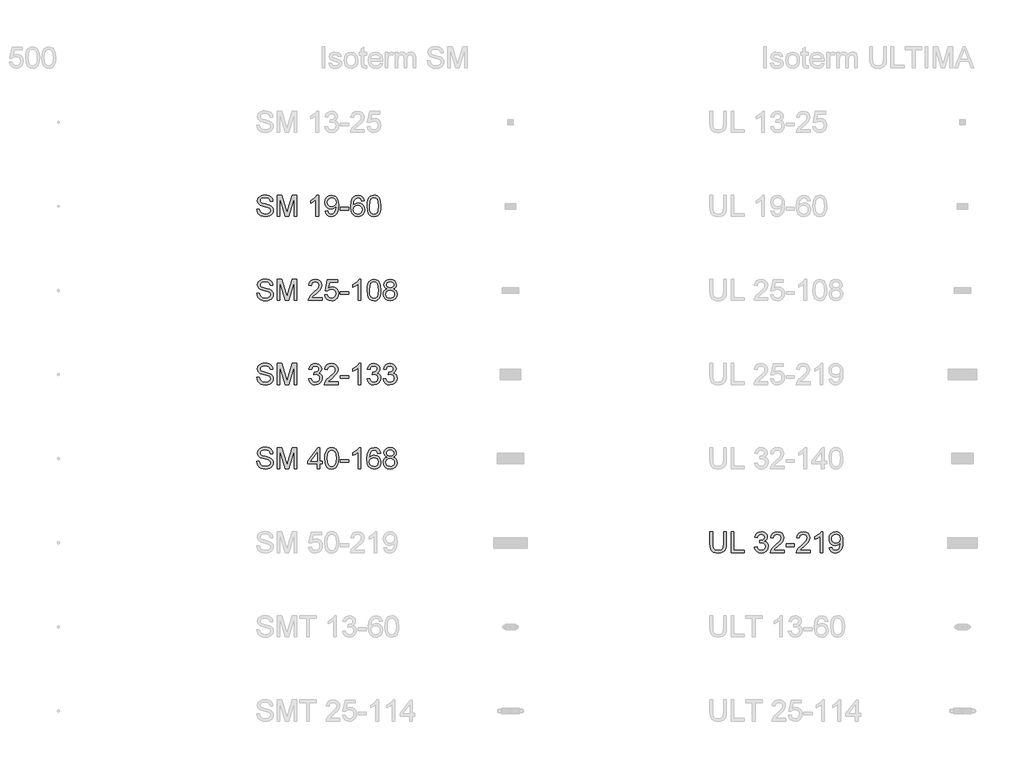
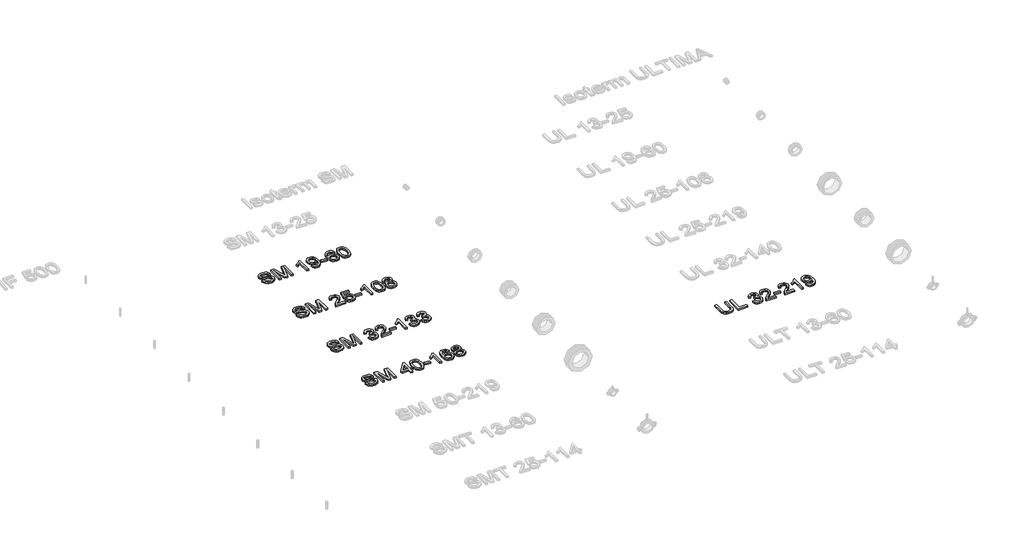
# One storey, part 7 of 10: 5 proxies.
"""IFC4 building model written with IfcOpenShell, lengths in millimetres."""

from ifc_helpers import new_model, si_unit, origin, origin_with_axes, place, context, project, spatial, polyline, outline, extrude, element, save

model = new_model("IFC4")

# Units and contexts
model_context = context("Model", 3, world=origin())
ifc_project = project(units=[si_unit("LENGTHUNIT", "METRE", prefix="MILLI")], contexts=[model_context])

# Site, building, storey
site = spatial("IfcSite", under=ifc_project)
building = spatial("IfcBuilding", under=site)
storey = spatial("IfcBuildingStorey", under=building, Name="Этаж 01", Elevation=0.0)

# Proxies
placement = place(None, origin())
element("IfcBuildingElementProxy", 1, Name="200 мм Arial", ObjectType="200 мм Arial", at=placement, inside=storey, context=model_context, shape_type="SweptSolid", body=[
    extrude(outline(polyline([(9162.1098597, -1525.9144615), (9187.2239373, -1525.9144615), (9195.3173412, -1551.0530645), (9203.4475333, -1559.9435461), (9215.084867, -1566.9455667), (9229.3096375, -1571.4889093), (9245.2021397, -1573.0033569), (9271.4443887, -1568.4170947), (9288.3914859, -1555.811005), (9293.9587668, -1538.9620096), (9289.7894375, -1523.2902366), (9283.4373417, -1517.091425), (9272.7197129, -1511.8858947), (9236.1522426, -1502.2964374), (9196.7888691, -1489.9110769), (9184.2870127, -1481.4620537), (9175.427188, -1471.2226715), (9170.1480813, -1459.4136595), (9168.3883791, -1446.2557468), (9170.5650143, -1431.5465984), (9177.0949197, -1417.8307313), (9187.8064171, -1406.2056603), (9202.5278283, -1397.7688998), (9220.1984268, -1392.636946), (9239.7574862, -1390.9262947), (9260.9474891, -1392.7166538), (9279.4887417, -1398.0877309), (9294.7190563, -1406.9291615), (9305.9762453, -1419.130581), (9313.1008933, -1433.9317), (9315.9335846, -1450.5722289), (9290.8195071, -1450.5722289), (9286.2087194, -1435.5871689), (9276.5947366, -1424.7714383), (9261.5728885, -1418.2231388), (9240.7385048, -1416.0403723), (9219.4136118, -1418.1986133), (9204.7841712, -1424.6733364), (9196.3228853, -1434.2014801), (9193.5024567, -1445.5199828), (9195.5012822, -1455.1707538), (9201.4977587, -1462.9330639), (9215.6734782, -1469.8737709), (9242.5043384, -1476.9616307), (9286.9444834, -1489.5677204), (9301.2612244, -1498.6789311), (9311.2492206, -1509.9238574), (9317.1169384, -1523.179872), (9319.0728443, -1538.3243475), (9316.8226328, -1553.8060481), (9310.0719982, -1568.3680437), (9299.096852, -1580.900557), (9284.1731057, -1590.2938107), (9266.2265957, -1596.1615285), (9246.1831584, -1598.1174344), (9221.5779843, -1596.0082443), (9201.3260804, -1589.680674), (9185.1944549, -1579.110198), (9172.9501159, -1564.2722909), (9165.0897039, -1546.1970222), (9162.1098597, -1525.9144615)])), origin_with_axes(), (0.0, 0.0, 1.0), 20.0),
    extrude(outline(polyline([(9356.7439606, -1594.9781747), (9356.7439606, -1394.0655544), (9399.9578323, -1394.0655544), (9441.0625139, -1535.6755971), (9449.3521216, -1565.2533095), (9458.3284422, -1533.2230505), (9498.7464108, -1394.0655544), (9541.9602825, -1394.0655544), (9541.9602825, -1594.9781747), (9516.8462049, -1594.9781747), (9516.8462049, -1419.179632), (9466.3727952, -1594.9781747), (9432.3314479, -1594.9781747), (9381.8580382, -1419.179632), (9381.8580382, -1594.9781747), (9356.7439606, -1594.9781747)])), origin_with_axes(), (0.0, 0.0, 1.0), 20.0),
    extrude(outline(polyline([(9749.1514222, -1594.9781747), (9724.0373446, -1594.9781747), (9724.0373446, -1438.4075976), (9700.2476423, -1455.3546948), (9673.8091896, -1468.0343609), (9673.8091896, -1444.2937095), (9710.6219145, -1420.7983127), (9724.0925269, -1407.2234671), (9732.9646144, -1394.0655544), (9749.1514222, -1394.0655544), (9749.1514222, -1594.9781747)])), origin_with_axes(), (0.0, 0.0, 1.0), 20.0),
    extrude(outline(polyline([(9811.936616, -1544.7500196), (9837.0506935, -1541.61076), (9841.3426502, -1555.8661873), (9848.3324081, -1565.5721406), (9857.848289, -1571.1455528), (9869.7186147, -1573.0033569), (9890.0502263, -1568.2208909), (9903.8335384, -1555.443123), (9912.0495696, -1533.6154579), (9915.6793387, -1504.4792039), (9915.5321859, -1499.5741106), (9906.8317767, -1510.1936376), (9895.4458289, -1518.6058725), (9882.1959457, -1524.0873143), (9867.9037302, -1525.9144615), (9845.003076, -1521.4508266), (9825.9406573, -1508.059922), (9813.0831816, -1487.3726911), (9808.7973563, -1461.0200775), (9813.291648, -1433.7968099), (9826.7745231, -1412.4596542), (9847.026427, -1398.6640794), (9871.8278048, -1394.0655544), (9890.5591297, -1396.6897793), (9907.6104602, -1404.562454), (9921.8720189, -1417.2911711), (9932.2340284, -1434.483523), (9938.5432047, -1458.2486999), (9940.6462634, -1490.6958918), (9938.549336, -1525.0989897), (9932.2585539, -1551.6907266), (9921.8290993, -1571.6728503), (9907.3161546, -1586.2471087), (9889.3451192, -1595.149853), (9868.5413923, -1598.1174344), (9847.0693466, -1594.6164241), (9829.9383083, -1584.1133931), (9817.957618, -1567.2705291), (9811.936616, -1544.7500196)]), holes=[polyline([(9915.5321859, -1460.4314664), (9912.8221218, -1443.4107927), (9904.6919297, -1430.3141937), (9892.0735773, -1421.9632724), (9875.8990322, -1419.179632), (9859.1236133, -1422.1778702), (9845.6836577, -1431.172585), (9836.8544898, -1444.937503), (9833.9114339, -1462.2463509), (9836.6950743, -1477.7648397), (9845.0459956, -1490.0827552), (9858.1548573, -1498.1209768), (9875.2123192, -1500.800384), (9891.2581055, -1498.1209768), (9904.1768949, -1490.0827552), (9912.6933631, -1477.3111186), (9915.5321859, -1460.4314664)])]), origin_with_axes(), (0.0, 0.0, 1.0), 20.0),
    extrude(outline(polyline([(9956.3425619, -1535.3322406), (9956.3425619, -1510.218163), (10034.8240542, -1510.218163), (10034.8240542, -1535.3322406), (9956.3425619, -1535.3322406)])), origin_with_axes(), (0.0, 0.0, 1.0), 20.0),
    extrude(outline(polyline([(10185.5085194, -1447.4329692), (10160.3944418, -1450.5722289), (10150.8785609, -1429.6274806), (10139.4864818, -1421.7915941), (10125.7154324, -1419.179632), (10103.0539015, -1425.2619476), (10093.6177284, -1434.8697991), (10085.9106006, -1448.0951568), (10080.7050703, -1466.8019562), (10078.7736898, -1492.8541329), (10088.8475251, -1481.1003031), (10100.920186, -1472.8168269), (10114.3172219, -1467.9056022), (10128.3641828, -1466.2685273), (10151.565274, -1470.744425), (10171.0384942, -1484.1721178), (10184.2454579, -1504.6876704), (10188.6477791, -1530.4271473), (10186.5753772, -1548.4104455), (10180.3581714, -1565.0816312), (10170.5111967, -1579.2205626), (10157.5494877, -1589.6070976), (10142.0616557, -1595.9898502), (10124.6363119, -1598.1174344), (10096.1438514, -1592.4765772), (10073.4516636, -1575.5540054), (10064.7926412, -1562.4451436), (10058.6076251, -1545.6819874), (10053.6596123, -1501.1927914), (10059.1533168, -1451.1731028), (10066.0204473, -1432.0953557), (10075.6344302, -1416.97234), (10086.0546877, -1406.9506213), (10098.1365455, -1399.7922508), (10127.2850623, -1394.0655544), (10149.3211938, -1397.6094843), (10166.9672668, -1408.241274), (10179.3281019, -1425.1270576), (10185.5085194, -1447.4329692)]), holes=[polyline([(10078.7736898, -1530.0347398), (10084.5862254, -1551.7888285), (10100.0372692, -1567.5832288), (10122.6742746, -1573.0033569), (10139.2473585, -1570.195191), (10152.2765125, -1561.7706933), (10160.7194043, -1548.5269415), (10163.5337015, -1531.2610132), (10160.7561925, -1514.6879293), (10152.4236653, -1502.0511827), (10139.1737821, -1494.0497493), (10121.644205, -1491.3826049), (10105.0956466, -1494.0497493), (10091.2571522, -1502.0511827), (10081.8945554, -1514.3813609), (10078.7736898, -1530.0347398)])]), origin_with_axes(), (0.0, 0.0, 1.0), 20.0),
    extrude(outline(polyline([(10210.6225969, -1496.1405454), (10212.4681383, -1463.9815276), (10218.0047623, -1438.3340212), (10227.1772867, -1418.8056186), (10239.9305292, -1405.0039124), (10256.3564603, -1396.8001439), (10276.5470505, -1394.0655544), (10292.0226197, -1395.6842352), (10305.8795082, -1400.5402775), (10317.467791, -1408.4436091), (10326.1375434, -1419.2041574), (10337.9097672, -1448.9290226), (10342.471504, -1496.1405454), (10340.6443567, -1528.1156221), (10335.162915, -1553.7018149), (10326.0455729, -1573.2486115), (10313.3107245, -1587.1055), (10296.8480052, -1595.3644508), (10276.5470505, -1598.1174344), (10250.4519543, -1593.3349685), (10230.6353775, -1578.9875707), (10221.879786, -1563.8584236), (10215.6257921, -1545.007537), (10210.6225969, -1496.1405454)]), holes=[polyline([(10235.7366745, -1496.0914944), (10238.6797304, -1535.5958893), (10247.5088983, -1558.4597553), (10260.6545483, -1569.3674565), (10276.5470505, -1573.0033569), (10292.4395526, -1569.3551938), (10305.5852026, -1558.4107044), (10314.4143705, -1535.5345757), (10317.3574265, -1496.0914944), (10314.5124724, -1457.4761477), (10305.9776101, -1434.434472), (10292.8564856, -1422.993342), (10276.2527449, -1419.179632), (10260.5319209, -1422.5396209), (10247.9013058, -1432.6195875), (10238.7778323, -1457.0960029), (10235.7366745, -1496.0914944)])]), origin_with_axes(), (0.0, 0.0, 1.0), 20.0),
])
element("IfcBuildingElementProxy", 2, Name="200 мм Arial", ObjectType="200 мм Arial", at=placement, inside=storey, context=model_context, shape_type="SweptSolid", body=[
    extrude(outline(polyline([(9162.1098597, -2325.9144615), (9187.2239373, -2325.9144615), (9195.3173412, -2351.0530645), (9203.4475333, -2359.9435461), (9215.084867, -2366.9455667), (9229.3096375, -2371.4889093), (9245.2021397, -2373.0033569), (9271.4443887, -2368.4170947), (9288.3914859, -2355.811005), (9293.9587668, -2338.9620096), (9289.7894375, -2323.2902366), (9283.4373417, -2317.091425), (9272.7197129, -2311.8858947), (9236.1522426, -2302.2964374), (9196.7888691, -2289.9110769), (9184.2870127, -2281.4620537), (9175.427188, -2271.2226715), (9170.1480813, -2259.4136595), (9168.3883791, -2246.2557468), (9170.5650143, -2231.5465984), (9177.0949197, -2217.8307313), (9187.8064171, -2206.2056603), (9202.5278283, -2197.7688998), (9220.1984268, -2192.636946), (9239.7574862, -2190.9262947), (9260.9474891, -2192.7166538), (9279.4887417, -2198.0877309), (9294.7190563, -2206.9291615), (9305.9762453, -2219.130581), (9313.1008933, -2233.9317), (9315.9335846, -2250.5722289), (9290.8195071, -2250.5722289), (9286.2087194, -2235.5871689), (9276.5947366, -2224.7714383), (9261.5728885, -2218.2231388), (9240.7385048, -2216.0403723), (9219.4136118, -2218.1986133), (9204.7841712, -2224.6733364), (9196.3228853, -2234.2014801), (9193.5024567, -2245.5199828), (9195.5012822, -2255.1707538), (9201.4977587, -2262.9330639), (9215.6734782, -2269.8737709), (9242.5043384, -2276.9616307), (9286.9444834, -2289.5677204), (9301.2612244, -2298.6789311), (9311.2492206, -2309.9238574), (9317.1169384, -2323.179872), (9319.0728443, -2338.3243475), (9316.8226328, -2353.8060481), (9310.0719982, -2368.3680437), (9299.096852, -2380.900557), (9284.1731057, -2390.2938107), (9266.2265957, -2396.1615285), (9246.1831584, -2398.1174344), (9221.5779843, -2396.0082443), (9201.3260804, -2389.680674), (9185.1944549, -2379.110198), (9172.9501159, -2364.2722909), (9165.0897039, -2346.1970222), (9162.1098597, -2325.9144615)])), origin_with_axes(), (0.0, 0.0, 1.0), 20.0),
    extrude(outline(polyline([(9356.7439606, -2394.9781747), (9356.7439606, -2194.0655544), (9399.9578323, -2194.0655544), (9441.0625139, -2335.6755971), (9449.3521216, -2365.2533095), (9458.3284422, -2333.2230505), (9498.7464108, -2194.0655544), (9541.9602825, -2194.0655544), (9541.9602825, -2394.9781747), (9516.8462049, -2394.9781747), (9516.8462049, -2219.179632), (9466.3727952, -2394.9781747), (9432.3314479, -2394.9781747), (9381.8580382, -2219.179632), (9381.8580382, -2394.9781747), (9356.7439606, -2394.9781747)])), origin_with_axes(), (0.0, 0.0, 1.0), 20.0),
    extrude(outline(polyline([(9783.6832788, -2369.8640972), (9783.6832788, -2394.9781747), (9651.8343717, -2394.9781747), (9654.532173, -2377.6631955), (9669.7870131, -2351.0040136), (9701.2286609, -2321.892285), (9744.5896854, -2280.0518394), (9752.7198775, -2265.6308652), (9755.4299416, -2251.6022985), (9752.8731617, -2239.0268656), (9745.2028221, -2228.5728856), (9733.4122041, -2221.5279454), (9718.4945892, -2219.179632), (9702.8289476, -2221.4727631), (9690.6581849, -2228.3521564), (9682.8039043, -2239.2782516), (9680.0877089, -2253.7114886), (9654.9736314, -2250.5722289), (9661.0620784, -2226.2797545), (9674.2261225, -2208.5355796), (9693.7790505, -2197.6830607), (9719.0341495, -2194.0655544), (9744.4731895, -2198.0877309), (9763.9893293, -2210.1542603), (9776.4053466, -2228.1804781), (9780.5440191, -2250.0817196), (9776.0803842, -2273.8959474), (9761.2424771, -2298.5195156), (9725.2636179, -2332.9287449), (9696.3726186, -2357.0863292), (9685.0418531, -2369.8640972), (9783.6832788, -2369.8640972)])), origin_with_axes(), (0.0, 0.0, 1.0), 20.0),
    extrude(outline(polyline([(9808.7973563, -2341.61076), (9833.9114339, -2338.4715003), (9838.5222215, -2353.5485307), (9846.5665745, -2364.3458673), (9858.0077045, -2370.8389845), (9872.8088235, -2373.0033569), (9890.8105158, -2369.9928559), (9904.2995223, -2360.9613529), (9912.72402, -2346.9511803), (9915.5321859, -2329.0046703), (9912.9018296, -2312.1066239), (9905.0107608, -2299.1817032), (9891.7976658, -2290.9779347), (9873.2012309, -2288.2433452), (9851.1528367, -2292.6088782), (9837.0506935, -2303.9396437), (9811.936616, -2300.800384), (9833.9114339, -2197.2048141), (9931.2284843, -2197.2048141), (9931.2284843, -2222.3188917), (9854.21852, -2222.3188917), (9843.4763657, -2277.6483437), (9861.4167444, -2266.7590367), (9880.2155143, -2263.1292677), (9903.6802542, -2267.6296907), (9923.1596059, -2281.13096), (9936.274599, -2301.7078262), (9940.6462634, -2327.4350404), (9936.709926, -2352.5491179), (9924.900914, -2374.0334265), (9914.4653281, -2384.5701799), (9902.288434, -2392.0964324), (9888.3702319, -2396.6121839), (9872.7107216, -2398.1174344), (9848.0442338, -2394.2485421), (9828.3932039, -2382.6418652), (9814.9225915, -2364.6463042), (9808.7973563, -2341.61076)])), origin_with_axes(), (0.0, 0.0, 1.0), 20.0),
    extrude(outline(polyline([(9956.3425619, -2335.3322406), (9956.3425619, -2310.218163), (10034.8240542, -2310.218163), (10034.8240542, -2335.3322406), (9956.3425619, -2335.3322406)])), origin_with_axes(), (0.0, 0.0, 1.0), 20.0),
    extrude(outline(polyline([(10150.9766628, -2394.9781747), (10125.8625852, -2394.9781747), (10125.8625852, -2238.4075976), (10102.0728829, -2255.3546948), (10075.6344302, -2268.0343609), (10075.6344302, -2244.2937095), (10112.4471551, -2220.7983127), (10125.9177675, -2207.2234671), (10134.789855, -2194.0655544), (10150.9766628, -2194.0655544), (10150.9766628, -2394.9781747)])), origin_with_axes(), (0.0, 0.0, 1.0), 20.0),
    extrude(outline(polyline([(10210.6225969, -2296.1405454), (10212.4681383, -2263.9815276), (10218.0047623, -2238.3340212), (10227.1772867, -2218.8056186), (10239.9305292, -2205.0039124), (10256.3564603, -2196.8001439), (10276.5470505, -2194.0655544), (10292.0226197, -2195.6842352), (10305.8795082, -2200.5402775), (10317.467791, -2208.4436091), (10326.1375434, -2219.2041574), (10337.9097672, -2248.9290226), (10342.471504, -2296.1405454), (10340.6443567, -2328.1156221), (10335.162915, -2353.7018149), (10326.0455729, -2373.2486115), (10313.3107245, -2387.1055), (10296.8480052, -2395.3644508), (10276.5470505, -2398.1174344), (10250.4519543, -2393.3349685), (10230.6353775, -2378.9875707), (10221.879786, -2363.8584236), (10215.6257921, -2345.007537), (10210.6225969, -2296.1405454)]), holes=[polyline([(10235.7366745, -2296.0914944), (10238.6797304, -2335.5958893), (10247.5088983, -2358.4597553), (10260.6545483, -2369.3674565), (10276.5470505, -2373.0033569), (10292.4395526, -2369.3551938), (10305.5852026, -2358.4107044), (10314.4143705, -2335.5345757), (10317.3574265, -2296.0914944), (10314.5124724, -2257.4761477), (10305.9776101, -2234.434472), (10292.8564856, -2222.993342), (10276.2527449, -2219.179632), (10260.5319209, -2222.5396209), (10247.9013058, -2232.6195875), (10238.7778323, -2257.0960029), (10235.7366745, -2296.0914944)])]), origin_with_axes(), (0.0, 0.0, 1.0), 20.0),
    extrude(outline(polyline([(10401.0383176, -2284.3192706), (10387.5922307, -2277.6973947), (10378.1560575, -2268.721074), (10372.5826453, -2257.5742495), (10370.7248412, -2244.4408623), (10374.7715432, -2224.8082265), (10386.911649, -2208.5846305), (10405.7839954, -2197.6953234), (10430.0274188, -2194.0655544), (10454.4179951, -2197.7811626), (10473.5355961, -2208.927987), (10485.8964312, -2225.4091004), (10490.0167095, -2245.1275754), (10488.1834309, -2257.8378983), (10482.6835951, -2268.7946504), (10473.4558884, -2277.7157888), (10460.4389971, -2284.3192706), (10475.8961723, -2292.2839158), (10487.14723, -2304.0132201), (10494.0082292, -2318.9430977), (10496.2952289, -2336.509463), (10491.7580176, -2360.5198945), (10478.1463838, -2380.3609968), (10457.1280592, -2393.678325), (10430.3707754, -2398.1174344), (10403.6134916, -2393.6599309), (10382.5951669, -2380.2874204), (10368.9835331, -2360.2562457), (10364.4463218, -2335.8227499), (10366.8252921, -2317.5758029), (10373.9622028, -2302.5662175), (10385.489172, -2291.3090285), (10401.0383176, -2284.3192706)]), holes=[polyline([(10395.8389188, -2245.1766263), (10398.0646048, -2256.1395097), (10404.741663, -2264.8951012), (10415.6738897, -2270.6340604), (10430.665081, -2272.5470467), (10445.3067844, -2270.6463231), (10456.0734641, -2264.9441522), (10462.69534, -2256.4828663), (10464.902632, -2246.3047977), (10462.6217636, -2235.7404531), (10455.7791585, -2227.0032557), (10444.865326, -2221.1355379), (10430.3707754, -2219.179632), (10415.7842543, -2221.0926183), (10404.8888158, -2226.8315775), (10398.101393, -2235.2438124), (10395.8389188, -2245.1766263)]), polyline([(10389.5603994, -2334.9398331), (10393.7542541, -2353.8489677), (10399.5606583, -2361.9607657), (10408.5921613, -2368.0001617), (10430.5669791, -2373.0033569), (10447.6612291, -2370.3730006), (10460.488048, -2362.4819318), (10468.5078755, -2350.5318983), (10471.1811514, -2335.724648), (10468.4220364, -2320.6660117), (10460.1446915, -2308.4523295), (10447.023567, -2300.3589256), (10429.7331132, -2297.6611243), (10412.8779865, -2300.3221374), (10400.1799263, -2308.3051767), (10392.2152811, -2320.285867), (10389.5603994, -2334.9398331)])]), origin_with_axes(), (0.0, 0.0, 1.0), 20.0),
])
element("IfcBuildingElementProxy", 3, Name="200 мм Arial", ObjectType="200 мм Arial", at=placement, inside=storey, context=model_context, shape_type="SweptSolid", body=[
    extrude(outline(polyline([(9162.1098597, -3125.9144615), (9187.2239373, -3125.9144615), (9195.3173412, -3151.0530645), (9203.4475333, -3159.9435461), (9215.084867, -3166.9455667), (9229.3096375, -3171.4889093), (9245.2021397, -3173.0033569), (9271.4443887, -3168.4170947), (9288.3914859, -3155.811005), (9293.9587668, -3138.9620096), (9289.7894375, -3123.2902366), (9283.4373417, -3117.091425), (9272.7197129, -3111.8858947), (9236.1522426, -3102.2964374), (9196.7888691, -3089.9110769), (9184.2870127, -3081.4620537), (9175.427188, -3071.2226715), (9170.1480813, -3059.4136595), (9168.3883791, -3046.2557468), (9170.5650143, -3031.5465984), (9177.0949197, -3017.8307313), (9187.8064171, -3006.2056603), (9202.5278283, -2997.7688998), (9220.1984268, -2992.636946), (9239.7574862, -2990.9262947), (9260.9474891, -2992.7166538), (9279.4887417, -2998.0877309), (9294.7190563, -3006.9291615), (9305.9762453, -3019.130581), (9313.1008933, -3033.9317), (9315.9335846, -3050.5722289), (9290.8195071, -3050.5722289), (9286.2087194, -3035.5871689), (9276.5947366, -3024.7714383), (9261.5728885, -3018.2231388), (9240.7385048, -3016.0403723), (9219.4136118, -3018.1986133), (9204.7841712, -3024.6733364), (9196.3228853, -3034.2014801), (9193.5024567, -3045.5199828), (9195.5012822, -3055.1707538), (9201.4977587, -3062.9330639), (9215.6734782, -3069.8737709), (9242.5043384, -3076.9616307), (9286.9444834, -3089.5677204), (9301.2612244, -3098.6789311), (9311.2492206, -3109.9238574), (9317.1169384, -3123.179872), (9319.0728443, -3138.3243475), (9316.8226328, -3153.8060481), (9310.0719982, -3168.3680437), (9299.096852, -3180.900557), (9284.1731057, -3190.2938107), (9266.2265957, -3196.1615285), (9246.1831584, -3198.1174344), (9221.5779843, -3196.0082443), (9201.3260804, -3189.680674), (9185.1944549, -3179.110198), (9172.9501159, -3164.2722909), (9165.0897039, -3146.1970222), (9162.1098597, -3125.9144615)])), origin_with_axes(), (0.0, 0.0, 1.0), 20.0),
    extrude(outline(polyline([(9356.7439606, -3194.9781747), (9356.7439606, -2994.0655544), (9399.9578323, -2994.0655544), (9441.0625139, -3135.6755971), (9449.3521216, -3165.2533095), (9458.3284422, -3133.2230505), (9498.7464108, -2994.0655544), (9541.9602825, -2994.0655544), (9541.9602825, -3194.9781747), (9516.8462049, -3194.9781747), (9516.8462049, -3019.179632), (9466.3727952, -3194.9781747), (9432.3314479, -3194.9781747), (9381.8580382, -3019.179632), (9381.8580382, -3194.9781747), (9356.7439606, -3194.9781747)])), origin_with_axes(), (0.0, 0.0, 1.0), 20.0),
    extrude(outline(polyline([(9654.9736314, -3141.61076), (9680.0877089, -3138.4715003), (9685.7101721, -3154.2536379), (9693.9445974, -3164.909953), (9705.1956551, -3170.9800059), (9719.8680154, -3173.0033569), (9737.0848927, -3170.2197164), (9750.3776955, -3161.8687952), (9758.8757696, -3149.4098583), (9761.7084609, -3134.302171), (9758.900295, -3119.9609045), (9750.4757973, -3108.3297021), (9737.7225549, -3100.6225743), (9721.9281545, -3098.0535317), (9704.3188697, -3100.800384), (9707.1147729, -3075.6863064), (9711.1369493, -3075.980612), (9726.1833229, -3074.1779902), (9739.6355412, -3068.7701249), (9749.1268967, -3059.622126), (9752.2906819, -3046.5991033), (9749.9975508, -3035.7527158), (9743.1181574, -3026.9542048), (9732.6212579, -3021.1232752), (9719.4756079, -3019.179632), (9706.3054325, -3021.1416693), (9695.5387527, -3027.0277812), (9687.6783408, -3036.8379677), (9683.2269686, -3050.5722289), (9658.1128911, -3047.4329692), (9665.5073192, -3024.8818029), (9678.6652319, -3008.0450702), (9696.6669242, -2997.5604334), (9718.5926911, -2994.0655544), (9734.3809601, -2995.7884684), (9748.881642, -3000.9572105), (9761.107587, -3009.111928), (9770.071645, -3019.7927686), (9775.5714808, -3032.0984214), (9777.4047594, -3045.1275754), (9775.6634513, -3057.2676812), (9770.439527, -3068.2796156), (9761.8065628, -3077.6606065), (9749.8381352, -3084.9078818), (9765.5589592, -3091.2599776), (9777.2085557, -3102.0757082), (9784.4190428, -3116.7664625), (9786.8225385, -3134.7436294), (9782.0155471, -3159.2200448), (9767.5945729, -3179.6742837), (9745.8282215, -3193.5066467), (9718.9850986, -3198.1174344), (9694.7048869, -3194.1810971), (9674.937361, -3182.372085), (9661.1908371, -3164.3090791), (9654.9736314, -3141.61076)])), origin_with_axes(), (0.0, 0.0, 1.0), 20.0),
    extrude(outline(polyline([(9937.5070037, -3169.8640972), (9937.5070037, -3194.9781747), (9805.6580966, -3194.9781747), (9808.3558979, -3177.6631955), (9823.610738, -3151.0040136), (9855.0523858, -3121.892285), (9898.4134103, -3080.0518394), (9906.5436024, -3065.6308652), (9909.2536665, -3051.6022985), (9906.6968866, -3039.0268656), (9899.026547, -3028.5728856), (9887.2359291, -3021.5279454), (9872.3183142, -3019.179632), (9856.6526725, -3021.4727631), (9844.4819099, -3028.3521564), (9836.6276293, -3039.2782516), (9833.9114339, -3053.7114886), (9808.7973563, -3050.5722289), (9814.8858033, -3026.2797545), (9828.0498474, -3008.5355796), (9847.6027754, -2997.6830607), (9872.8578744, -2994.0655544), (9898.2969144, -2998.0877309), (9917.8130542, -3010.1542603), (9930.2290716, -3028.1804781), (9934.367744, -3050.0817196), (9929.9041091, -3073.8959474), (9915.066202, -3098.5195156), (9879.0873429, -3132.9287449), (9850.1963435, -3157.0863292), (9838.8655781, -3169.8640972), (9937.5070037, -3169.8640972)])), origin_with_axes(), (0.0, 0.0, 1.0), 20.0),
    extrude(outline(polyline([(9956.3425619, -3135.3322406), (9956.3425619, -3110.218163), (10034.8240542, -3110.218163), (10034.8240542, -3135.3322406), (9956.3425619, -3135.3322406)])), origin_with_axes(), (0.0, 0.0, 1.0), 20.0),
    extrude(outline(polyline([(10150.9766628, -3194.9781747), (10125.8625852, -3194.9781747), (10125.8625852, -3038.4075976), (10102.0728829, -3055.3546948), (10075.6344302, -3068.0343609), (10075.6344302, -3044.2937095), (10112.4471551, -3020.7983127), (10125.9177675, -3007.2234671), (10134.789855, -2994.0655544), (10150.9766628, -2994.0655544), (10150.9766628, -3194.9781747)])), origin_with_axes(), (0.0, 0.0, 1.0), 20.0),
    extrude(outline(polyline([(10210.6225969, -3141.61076), (10235.7366745, -3138.4715003), (10241.3591376, -3154.2536379), (10249.5935629, -3164.909953), (10260.8446206, -3170.9800059), (10275.5169809, -3173.0033569), (10292.7338582, -3170.2197164), (10306.026661, -3161.8687952), (10314.5247351, -3149.4098583), (10317.3574265, -3134.302171), (10314.5492606, -3119.9609045), (10306.1247629, -3108.3297021), (10293.3715204, -3100.6225743), (10277.57712, -3098.0535317), (10259.9678352, -3100.800384), (10262.7637384, -3075.6863064), (10266.7859148, -3075.980612), (10281.8322885, -3074.1779902), (10295.2845067, -3068.7701249), (10304.7758622, -3059.622126), (10307.9396474, -3046.5991033), (10305.6465163, -3035.7527158), (10298.767123, -3026.9542048), (10288.2702234, -3021.1232752), (10275.1245734, -3019.179632), (10261.954398, -3021.1416693), (10251.1877183, -3027.0277812), (10243.3273063, -3036.8379677), (10238.8759341, -3050.5722289), (10213.7618566, -3047.4329692), (10221.1562847, -3024.8818029), (10234.3141974, -3008.0450702), (10252.3158897, -2997.5604334), (10274.2416566, -2994.0655544), (10290.0299256, -2995.7884684), (10304.5306076, -3000.9572105), (10316.7565525, -3009.111928), (10325.7206105, -3019.7927686), (10331.2204463, -3032.0984214), (10333.0537249, -3045.1275754), (10331.3124168, -3057.2676812), (10326.0884925, -3068.2796156), (10317.4555283, -3077.6606065), (10305.4871007, -3084.9078818), (10321.2079247, -3091.2599776), (10332.8575212, -3102.0757082), (10340.0680083, -3116.7664625), (10342.471504, -3134.7436294), (10337.6645126, -3159.2200448), (10323.2435384, -3179.6742837), (10301.477187, -3193.5066467), (10274.6340641, -3198.1174344), (10250.3538524, -3194.1810971), (10230.5863265, -3182.372085), (10216.8398026, -3164.3090791), (10210.6225969, -3141.61076)])), origin_with_axes(), (0.0, 0.0, 1.0), 20.0),
    extrude(outline(polyline([(10364.4463218, -3141.61076), (10389.5603994, -3138.4715003), (10395.1828625, -3154.2536379), (10403.4172879, -3164.909953), (10414.6683455, -3170.9800059), (10429.3407058, -3173.0033569), (10446.5575832, -3170.2197164), (10459.8503859, -3161.8687952), (10468.34846, -3149.4098583), (10471.1811514, -3134.302171), (10468.3729855, -3119.9609045), (10459.9484878, -3108.3297021), (10447.1952453, -3100.6225743), (10431.400845, -3098.0535317), (10413.7915601, -3100.800384), (10416.5874633, -3075.6863064), (10420.6096398, -3075.980612), (10435.6560134, -3074.1779902), (10449.1082317, -3068.7701249), (10458.5995871, -3059.622126), (10461.7633723, -3046.5991033), (10459.4702412, -3035.7527158), (10452.5908479, -3026.9542048), (10442.0939483, -3021.1232752), (10428.9482983, -3019.179632), (10415.7781229, -3021.1416693), (10405.0114432, -3027.0277812), (10397.1510312, -3036.8379677), (10392.6996591, -3050.5722289), (10367.5855815, -3047.4329692), (10374.9800096, -3024.8818029), (10388.1379223, -3008.0450702), (10406.1396146, -2997.5604334), (10428.0653815, -2994.0655544), (10443.8536505, -2995.7884684), (10458.3543325, -3000.9572105), (10470.5802774, -3009.111928), (10479.5443354, -3019.7927686), (10485.0441712, -3032.0984214), (10486.8774498, -3045.1275754), (10485.1361417, -3057.2676812), (10479.9122174, -3068.2796156), (10471.2792532, -3077.6606065), (10459.3108257, -3084.9078818), (10475.0316496, -3091.2599776), (10486.6812461, -3102.0757082), (10493.8917332, -3116.7664625), (10496.2952289, -3134.7436294), (10491.4882375, -3159.2200448), (10477.0672633, -3179.6742837), (10455.3009119, -3193.5066467), (10428.457789, -3198.1174344), (10404.1775773, -3194.1810971), (10384.4100514, -3182.372085), (10370.6635276, -3164.3090791), (10364.4463218, -3141.61076)])), origin_with_axes(), (0.0, 0.0, 1.0), 20.0),
])
element("IfcBuildingElementProxy", 4, Name="200 мм Arial", ObjectType="200 мм Arial", at=placement, inside=storey, context=model_context, shape_type="SweptSolid", body=[
    extrude(outline(polyline([(9162.1098597, -3925.9144615), (9187.2239373, -3925.9144615), (9195.3173412, -3951.0530645), (9203.4475333, -3959.9435461), (9215.084867, -3966.9455667), (9229.3096375, -3971.4889093), (9245.2021397, -3973.0033569), (9271.4443887, -3968.4170947), (9288.3914859, -3955.811005), (9293.9587668, -3938.9620096), (9289.7894375, -3923.2902366), (9283.4373417, -3917.091425), (9272.7197129, -3911.8858947), (9236.1522426, -3902.2964374), (9196.7888691, -3889.9110769), (9184.2870127, -3881.4620537), (9175.427188, -3871.2226715), (9170.1480813, -3859.4136595), (9168.3883791, -3846.2557468), (9170.5650143, -3831.5465984), (9177.0949197, -3817.8307313), (9187.8064171, -3806.2056603), (9202.5278283, -3797.7688998), (9220.1984268, -3792.636946), (9239.7574862, -3790.9262947), (9260.9474891, -3792.7166538), (9279.4887417, -3798.0877309), (9294.7190563, -3806.9291615), (9305.9762453, -3819.130581), (9313.1008933, -3833.9317), (9315.9335846, -3850.5722289), (9290.8195071, -3850.5722289), (9286.2087194, -3835.5871689), (9276.5947366, -3824.7714383), (9261.5728885, -3818.2231388), (9240.7385048, -3816.0403723), (9219.4136118, -3818.1986133), (9204.7841712, -3824.6733364), (9196.3228853, -3834.2014801), (9193.5024567, -3845.5199828), (9195.5012822, -3855.1707538), (9201.4977587, -3862.9330639), (9215.6734782, -3869.8737709), (9242.5043384, -3876.9616307), (9286.9444834, -3889.5677204), (9301.2612244, -3898.6789311), (9311.2492206, -3909.9238574), (9317.1169384, -3923.179872), (9319.0728443, -3938.3243475), (9316.8226328, -3953.8060481), (9310.0719982, -3968.3680437), (9299.096852, -3980.900557), (9284.1731057, -3990.2938107), (9266.2265957, -3996.1615285), (9246.1831584, -3998.1174344), (9221.5779843, -3996.0082443), (9201.3260804, -3989.680674), (9185.1944549, -3979.110198), (9172.9501159, -3964.2722909), (9165.0897039, -3946.1970222), (9162.1098597, -3925.9144615)])), origin_with_axes(), (0.0, 0.0, 1.0), 20.0),
    extrude(outline(polyline([(9356.7439606, -3994.9781747), (9356.7439606, -3794.0655544), (9399.9578323, -3794.0655544), (9441.0625139, -3935.6755971), (9449.3521216, -3965.2533095), (9458.3284422, -3933.2230505), (9498.7464108, -3794.0655544), (9541.9602825, -3794.0655544), (9541.9602825, -3994.9781747), (9516.8462049, -3994.9781747), (9516.8462049, -3819.179632), (9466.3727952, -3994.9781747), (9432.3314479, -3994.9781747), (9381.8580382, -3819.179632), (9381.8580382, -3994.9781747), (9356.7439606, -3994.9781747)])), origin_with_axes(), (0.0, 0.0, 1.0), 20.0),
    extrude(outline(polyline([(9736.5943834, -3994.9781747), (9736.5943834, -3947.8892793), (9645.5558523, -3947.8892793), (9645.5558523, -3922.7752018), (9742.8729028, -3797.2048141), (9761.7084609, -3797.2048141), (9761.7084609, -3922.7752018), (9786.8225385, -3922.7752018), (9786.8225385, -3947.8892793), (9761.7084609, -3947.8892793), (9761.7084609, -3994.9781747), (9736.5943834, -3994.9781747)]), holes=[polyline([(9736.5943834, -3922.7752018), (9736.5943834, -3845.1766263), (9676.4579399, -3922.7752018), (9736.5943834, -3922.7752018)])]), origin_with_axes(), (0.0, 0.0, 1.0), 20.0),
    extrude(outline(polyline([(9808.7973563, -3896.1405454), (9810.6428977, -3863.9815276), (9816.1795217, -3838.3340212), (9825.3520461, -3818.8056186), (9838.1052886, -3805.0039124), (9854.5312197, -3796.8001439), (9874.7218099, -3794.0655544), (9890.1973791, -3795.6842352), (9904.0542676, -3800.5402775), (9915.6425505, -3808.4436091), (9924.3123028, -3819.2041574), (9936.0845266, -3848.9290226), (9940.6462634, -3896.1405454), (9938.8191161, -3928.1156221), (9933.3376744, -3953.7018149), (9924.2203323, -3973.2486115), (9911.4854839, -3987.1055), (9895.0227646, -3995.3644508), (9874.7218099, -3998.1174344), (9848.6267137, -3993.3349685), (9828.8101369, -3978.9875707), (9820.0545454, -3963.8584236), (9813.8005515, -3945.007537), (9808.7973563, -3896.1405454)]), holes=[polyline([(9833.9114339, -3896.0914944), (9836.8544898, -3935.5958893), (9845.6836577, -3958.4597553), (9858.8293077, -3969.3674565), (9874.7218099, -3973.0033569), (9890.614312, -3969.3551938), (9903.759962, -3958.4107044), (9912.5891299, -3935.5345757), (9915.5321859, -3896.0914944), (9912.6872318, -3857.4761477), (9904.1523695, -3834.434472), (9891.031245, -3822.993342), (9874.4275043, -3819.179632), (9858.7066803, -3822.5396209), (9846.0760652, -3832.6195875), (9836.9525917, -3857.0960029), (9833.9114339, -3896.0914944)])]), origin_with_axes(), (0.0, 0.0, 1.0), 20.0),
    extrude(outline(polyline([(9956.3425619, -3935.3322406), (9956.3425619, -3910.218163), (10034.8240542, -3910.218163), (10034.8240542, -3935.3322406), (9956.3425619, -3935.3322406)])), origin_with_axes(), (0.0, 0.0, 1.0), 20.0),
    extrude(outline(polyline([(10150.9766628, -3994.9781747), (10125.8625852, -3994.9781747), (10125.8625852, -3838.4075976), (10102.0728829, -3855.3546948), (10075.6344302, -3868.0343609), (10075.6344302, -3844.2937095), (10112.4471551, -3820.7983127), (10125.9177675, -3807.2234671), (10134.789855, -3794.0655544), (10150.9766628, -3794.0655544), (10150.9766628, -3994.9781747)])), origin_with_axes(), (0.0, 0.0, 1.0), 20.0),
    extrude(outline(polyline([(10339.3322443, -3847.4329692), (10314.2181668, -3850.5722289), (10304.7022858, -3829.6274806), (10293.3102067, -3821.7915941), (10279.5391573, -3819.179632), (10256.8776264, -3825.2619476), (10247.4414533, -3834.8697991), (10239.7343255, -3848.0951568), (10234.5287952, -3866.8019562), (10232.5974148, -3892.8541329), (10242.6712501, -3881.1003031), (10254.7439109, -3872.8168269), (10268.1409469, -3867.9056022), (10282.1879077, -3866.2685273), (10305.3889989, -3870.744425), (10324.8622192, -3884.1721178), (10338.0691828, -3904.6876704), (10342.471504, -3930.4271473), (10340.3991021, -3948.4104455), (10334.1818964, -3965.0816312), (10324.3349216, -3979.2205626), (10311.3732127, -3989.6070976), (10295.8853807, -3995.9898502), (10278.4600368, -3998.1174344), (10249.9675763, -3992.4765772), (10227.2753886, -3975.5540054), (10218.6163661, -3962.4451436), (10212.4313501, -3945.6819874), (10207.4833372, -3901.1927914), (10212.9770417, -3851.1731028), (10219.8441723, -3832.0953557), (10229.4581551, -3816.97234), (10239.8784126, -3806.9506213), (10251.9602704, -3799.7922508), (10281.1087872, -3794.0655544), (10303.1449187, -3797.6094843), (10320.7909917, -3808.241274), (10333.1518268, -3825.1270576), (10339.3322443, -3847.4329692)]), holes=[polyline([(10232.5974148, -3930.0347398), (10238.4099503, -3951.7888285), (10253.8609941, -3967.5832288), (10276.4979995, -3973.0033569), (10293.0710834, -3970.195191), (10306.1002374, -3961.7706933), (10314.5431292, -3948.5269415), (10317.3574265, -3931.2610132), (10314.5799174, -3914.6879293), (10306.2473902, -3902.0511827), (10292.997507, -3894.0497493), (10275.4679299, -3891.3826049), (10258.9193715, -3894.0497493), (10245.0808771, -3902.0511827), (10235.7182804, -3914.3813609), (10232.5974148, -3930.0347398)])]), origin_with_axes(), (0.0, 0.0, 1.0), 20.0),
    extrude(outline(polyline([(10401.0383176, -3884.3192706), (10387.5922307, -3877.6973947), (10378.1560575, -3868.721074), (10372.5826453, -3857.5742495), (10370.7248412, -3844.4408623), (10374.7715432, -3824.8082265), (10386.911649, -3808.5846305), (10405.7839954, -3797.6953234), (10430.0274188, -3794.0655544), (10454.4179951, -3797.7811626), (10473.5355961, -3808.927987), (10485.8964312, -3825.4091004), (10490.0167095, -3845.1275754), (10488.1834309, -3857.8378983), (10482.6835951, -3868.7946504), (10473.4558884, -3877.7157888), (10460.4389971, -3884.3192706), (10475.8961723, -3892.2839158), (10487.14723, -3904.0132201), (10494.0082292, -3918.9430977), (10496.2952289, -3936.509463), (10491.7580176, -3960.5198945), (10478.1463838, -3980.3609968), (10457.1280592, -3993.678325), (10430.3707754, -3998.1174344), (10403.6134916, -3993.6599309), (10382.5951669, -3980.2874204), (10368.9835331, -3960.2562457), (10364.4463218, -3935.8227499), (10366.8252921, -3917.5758029), (10373.9622028, -3902.5662175), (10385.489172, -3891.3090285), (10401.0383176, -3884.3192706)]), holes=[polyline([(10395.8389188, -3845.1766263), (10398.0646048, -3856.1395097), (10404.741663, -3864.8951012), (10415.6738897, -3870.6340604), (10430.665081, -3872.5470467), (10445.3067844, -3870.6463231), (10456.0734641, -3864.9441522), (10462.69534, -3856.4828663), (10464.902632, -3846.3047977), (10462.6217636, -3835.7404531), (10455.7791585, -3827.0032557), (10444.865326, -3821.1355379), (10430.3707754, -3819.179632), (10415.7842543, -3821.0926183), (10404.8888158, -3826.8315775), (10398.101393, -3835.2438124), (10395.8389188, -3845.1766263)]), polyline([(10389.5603994, -3934.9398331), (10393.7542541, -3953.8489677), (10399.5606583, -3961.9607657), (10408.5921613, -3968.0001617), (10430.5669791, -3973.0033569), (10447.6612291, -3970.3730006), (10460.488048, -3962.4819318), (10468.5078755, -3950.5318983), (10471.1811514, -3935.724648), (10468.4220364, -3920.6660117), (10460.1446915, -3908.4523295), (10447.023567, -3900.3589256), (10429.7331132, -3897.6611243), (10412.8779865, -3900.3221374), (10400.1799263, -3908.3051767), (10392.2152811, -3920.285867), (10389.5603994, -3934.9398331)])]), origin_with_axes(), (0.0, 0.0, 1.0), 20.0),
])
element("IfcBuildingElementProxy", 5, Name="200 мм Arial", ObjectType="200 мм Arial", at=placement, inside=storey, context=model_context, shape_type="SweptSolid", body=[
    extrude(outline(polyline([(13603.3765459, -4594.0655544), (13628.4906234, -4594.0655544), (13628.4906234, -4709.9729084), (13626.7861035, -4737.1164682), (13621.6725438, -4758.0182969), (13612.1198746, -4774.1437911), (13597.0980265, -4786.9583472), (13576.5702112, -4795.3276626), (13550.4996404, -4798.1174344), (13524.9992868, -4795.6894132), (13504.6124929, -4788.4053497), (13489.3331274, -4776.5166299), (13479.1550588, -4760.2746398), (13473.4344938, -4738.4898944), (13471.5276388, -4709.9729084), (13471.5276388, -4594.0655544), (13496.6417163, -4594.0655544), (13496.6417163, -4709.0899916), (13497.8802524, -4731.659552), (13501.5958605, -4747.3742445), (13508.3281011, -4758.2574202), (13518.6165342, -4766.33243), (13532.0319643, -4771.3356252), (13548.1451957, -4773.0033569), (13573.6884689, -4769.7046817), (13590.6723543, -4759.808656), (13600.200498, -4740.5316394), (13603.3765459, -4709.0899916), (13603.3765459, -4594.0655544)])), origin_with_axes(), (0.0, 0.0, 1.0), 20.0),
    extrude(outline(polyline([(13672.4402591, -4794.9781747), (13672.4402591, -4594.0655544), (13697.5543366, -4594.0655544), (13697.5543366, -4769.8640972), (13798.0106468, -4769.8640972), (13798.0106468, -4794.9781747), (13672.4402591, -4794.9781747)])), origin_with_axes(), (0.0, 0.0, 1.0), 20.0),
    extrude(outline(polyline([(13895.3276973, -4741.61076), (13920.4417748, -4738.4715003), (13926.0642379, -4754.2536379), (13934.2986633, -4764.909953), (13945.549721, -4770.9800059), (13960.2220812, -4773.0033569), (13977.4389586, -4770.2197164), (13990.7317613, -4761.8687952), (13999.2298354, -4749.4098583), (14002.0625268, -4734.302171), (13999.2543609, -4719.9609045), (13990.8298632, -4708.3297021), (13978.0766207, -4700.6225743), (13962.2822204, -4698.0535317), (13944.6729355, -4700.800384), (13947.4688387, -4675.6863064), (13951.4910152, -4675.980612), (13966.5373888, -4674.1779902), (13979.9896071, -4668.7701249), (13989.4809625, -4659.622126), (13992.6447477, -4646.5991033), (13990.3516166, -4635.7527158), (13983.4722233, -4626.9542048), (13972.9753237, -4621.1232752), (13959.8296737, -4619.179632), (13946.6594983, -4621.1416693), (13935.8928186, -4627.0277812), (13928.0324066, -4636.8379677), (13923.5810345, -4650.5722289), (13898.4669569, -4647.4329692), (13905.861385, -4624.8818029), (13919.0192977, -4608.0450702), (13937.02099, -4597.5604334), (13958.9467569, -4594.0655544), (13974.7350259, -4595.7884684), (13989.2357079, -4600.9572105), (14001.4616529, -4609.111928), (14010.4257108, -4619.7927686), (14015.9255466, -4632.0984214), (14017.7588252, -4645.1275754), (14016.0175171, -4657.2676812), (14010.7935928, -4668.2796156), (14002.1606287, -4677.6606065), (13990.1922011, -4684.9078818), (14005.913025, -4691.2599776), (14017.5626215, -4702.0757082), (14024.7731086, -4716.7664625), (14027.1766043, -4734.7436294), (14022.3696129, -4759.2200448), (14007.9486387, -4779.6742837), (13986.1822873, -4793.5066467), (13959.3391644, -4798.1174344), (13935.0589527, -4794.1810971), (13915.2914269, -4782.372085), (13901.544903, -4764.3090791), (13895.3276973, -4741.61076)])), origin_with_axes(), (0.0, 0.0, 1.0), 20.0),
    extrude(outline(polyline([(14177.8610695, -4769.8640972), (14177.8610695, -4794.9781747), (14046.0121625, -4794.9781747), (14048.7099638, -4777.6631955), (14063.9648038, -4751.0040136), (14095.4064517, -4721.892285), (14138.7674762, -4680.0518394), (14146.8976683, -4665.6308652), (14149.6077323, -4651.6022985), (14147.0509525, -4639.0268656), (14139.3806129, -4628.5728856), (14127.5899949, -4621.5279454), (14112.67238, -4619.179632), (14097.0067384, -4621.4727631), (14084.8359757, -4628.3521564), (14076.9816951, -4639.2782516), (14074.2654997, -4653.7114886), (14049.1514222, -4650.5722289), (14055.2398692, -4626.2797545), (14068.4039132, -4608.5355796), (14087.9568413, -4597.6830607), (14113.2119403, -4594.0655544), (14138.6509802, -4598.0877309), (14158.1671201, -4610.1542603), (14170.5831374, -4628.1804781), (14174.7218099, -4650.0817196), (14170.258175, -4673.8959474), (14155.4202678, -4698.5195156), (14119.4414087, -4732.9287449), (14090.5504094, -4757.0863292), (14079.2196439, -4769.8640972), (14177.8610695, -4769.8640972)])), origin_with_axes(), (0.0, 0.0, 1.0), 20.0),
    extrude(outline(polyline([(14196.6966277, -4735.3322406), (14196.6966277, -4710.218163), (14275.17812, -4710.218163), (14275.17812, -4735.3322406), (14196.6966277, -4735.3322406)])), origin_with_axes(), (0.0, 0.0, 1.0), 20.0),
    extrude(outline(polyline([(14425.8625852, -4769.8640972), (14425.8625852, -4794.9781747), (14294.0136782, -4794.9781747), (14296.7114795, -4777.6631955), (14311.9663195, -4751.0040136), (14343.4079674, -4721.892285), (14386.7689919, -4680.0518394), (14394.899184, -4665.6308652), (14397.609248, -4651.6022985), (14395.0524681, -4639.0268656), (14387.3821285, -4628.5728856), (14375.5915106, -4621.5279454), (14360.6738957, -4619.179632), (14345.0082541, -4621.4727631), (14332.8374914, -4628.3521564), (14324.9832108, -4639.2782516), (14322.2670154, -4653.7114886), (14297.1529378, -4650.5722289), (14303.2413849, -4626.2797545), (14316.4054289, -4608.5355796), (14335.958357, -4597.6830607), (14361.2134559, -4594.0655544), (14386.6524959, -4598.0877309), (14406.1686358, -4610.1542603), (14418.5846531, -4628.1804781), (14422.7233255, -4650.0817196), (14418.2596907, -4673.8959474), (14403.4217835, -4698.5195156), (14367.4429244, -4732.9287449), (14338.551925, -4757.0863292), (14327.2211596, -4769.8640972), (14425.8625852, -4769.8640972)])), origin_with_axes(), (0.0, 0.0, 1.0), 20.0),
    extrude(outline(polyline([(14545.1544535, -4794.9781747), (14520.040376, -4794.9781747), (14520.040376, -4638.4075976), (14496.2506736, -4655.3546948), (14469.8122209, -4668.0343609), (14469.8122209, -4644.2937095), (14506.6249459, -4620.7983127), (14520.0955583, -4607.2234671), (14528.9676457, -4594.0655544), (14545.1544535, -4594.0655544), (14545.1544535, -4794.9781747)])), origin_with_axes(), (0.0, 0.0, 1.0), 20.0),
    extrude(outline(polyline([(14607.9396474, -4744.7500196), (14633.0537249, -4741.61076), (14637.3456815, -4755.8661873), (14644.3354394, -4765.5721406), (14653.8513204, -4771.1455528), (14665.7216461, -4773.0033569), (14686.0532577, -4768.2208909), (14699.8365698, -4755.443123), (14708.052601, -4733.6154579), (14711.68237, -4704.4792039), (14711.5352172, -4699.5741106), (14702.834808, -4710.1936376), (14691.4488603, -4718.6058725), (14678.1989771, -4724.0873143), (14663.9067616, -4725.9144615), (14641.0061074, -4721.4508266), (14621.9436887, -4708.059922), (14609.0862129, -4687.3726911), (14604.8003877, -4661.0200775), (14609.2946794, -4633.7968099), (14622.7775545, -4612.4596542), (14643.0294583, -4598.6640794), (14667.8308362, -4594.0655544), (14686.5621611, -4596.6897793), (14703.6134916, -4604.562454), (14717.8750503, -4617.2911711), (14728.2370598, -4634.483523), (14734.546236, -4658.2486999), (14736.6492948, -4690.6958918), (14734.5523674, -4725.0989897), (14728.2615853, -4751.6907266), (14717.8321307, -4771.6728503), (14703.319186, -4786.2471087), (14685.3481505, -4795.149853), (14664.5444237, -4798.1174344), (14643.0723779, -4794.6164241), (14625.9413397, -4784.1133931), (14613.9606494, -4767.2705291), (14607.9396474, -4744.7500196)]), holes=[polyline([(14711.5352172, -4660.4314664), (14708.8251532, -4643.4107927), (14700.6949611, -4630.3141937), (14688.0766087, -4621.9632724), (14671.9020636, -4619.179632), (14655.1266446, -4622.1778702), (14641.6866891, -4631.172585), (14632.8575212, -4644.937503), (14629.9144652, -4662.2463509), (14632.6981056, -4677.7648397), (14641.0490269, -4690.0827552), (14654.1578887, -4698.1209768), (14671.2153505, -4700.800384), (14687.2611369, -4698.1209768), (14700.1799263, -4690.0827552), (14708.6963945, -4677.3111186), (14711.5352172, -4660.4314664)])]), origin_with_axes(), (0.0, 0.0, 1.0), 20.0),
])

save(model, "model.ifc")
